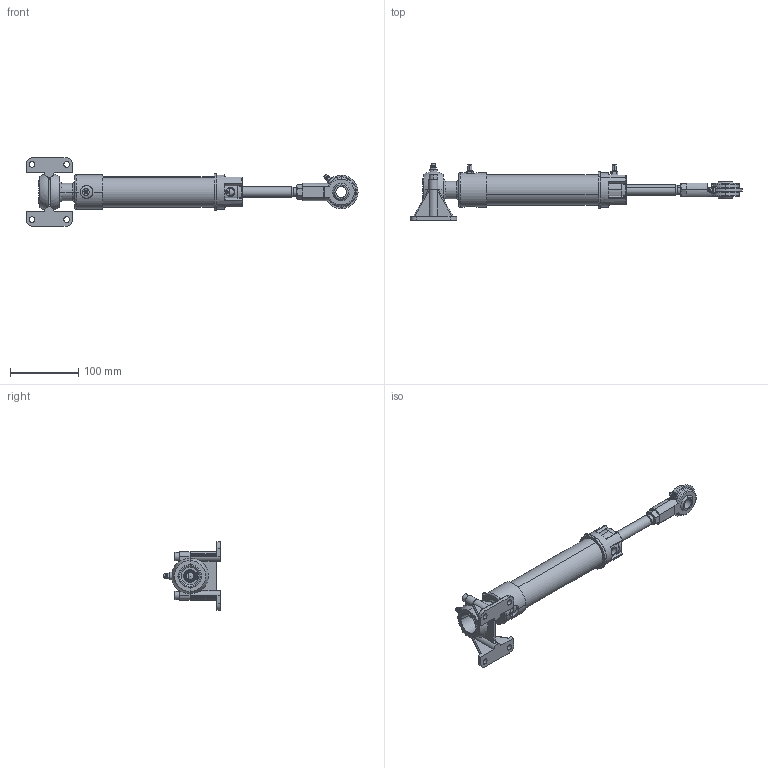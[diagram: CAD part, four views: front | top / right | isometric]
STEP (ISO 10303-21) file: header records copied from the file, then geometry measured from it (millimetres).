
FILE_DESCRIPTION (( 'STEP AP214' ), '1' );
FILE_NAME ('7040-U5.5.STEP', '2019-03-20T17:23:44', ( '' ), ( '' ), 'SwSTEP 2.0', 'SolidWorks 2017', '' );
FILE_SCHEMA (( 'AUTOMOTIVE_DESIGN' ));
Length unit declared in the file: inch
Products named in the file (1): 7040-U5.5
Bounding box: 487.67 x 83.84 x 100.33 mm (x, y, z)
Surface area: 109440.7 mm2 (no closed solid volume)
Topology: 0 solids, 19 shells, 436 faces, 1240 edges, 794 vertices
Faces by surface type: cylinder 153, plane 144, torus 65, cone 47, sphere 19, bspline 8
Entity records: 21607 total; most frequent: CARTESIAN_POINT 4908, DIRECTION 2364, ORIENTED_EDGE 2203, EDGE_CURVE 1208, AXIS2_PLACEMENT_3D 956, VERTEX_POINT 787, CIRCLE 527, EDGE_LOOP 479
